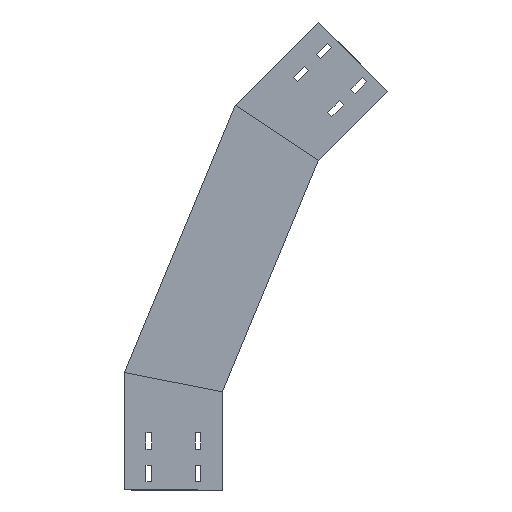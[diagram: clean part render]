
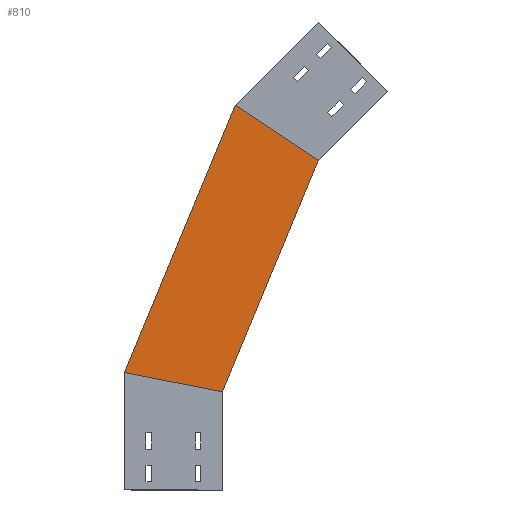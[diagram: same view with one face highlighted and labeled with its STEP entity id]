
A CAD part, left-side view. The second image highlights one B-rep face of the part: STEP entity #810.
In plain terms, the highlighted planar face has unit normal (-1, 0, 0) as drawn and (1, 0, 0) by its records, which use the part's own axes.
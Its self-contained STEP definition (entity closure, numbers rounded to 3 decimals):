
#205 = VERTEX_POINT ( 'NONE', #1183 ) ;
#213 = VECTOR ( 'NONE', #1932, 1000. ) ;
#249 = VECTOR ( 'NONE', #1435, 1000. ) ;
#252 = CARTESIAN_POINT ( 'NONE',  ( 0., 150., 179.837 ) ) ;
#365 = LINE ( 'NONE', #1309, #213 ) ;
#458 = AXIS2_PLACEMENT_3D ( 'NONE', #1426, #462, #636 ) ;
#462 = DIRECTION ( 'NONE',  ( 1., 0., 0. ) ) ;
#523 = VERTEX_POINT ( 'NONE', #1459 ) ;
#636 = DIRECTION ( 'NONE',  ( 0., 0., -1. ) ) ;
#685 = ORIENTED_EDGE ( 'NONE', *, *, #2028, .T. ) ;
#759 = EDGE_CURVE ( 'NONE', #1166, #205, #1785, .T. ) ;
#793 = PLANE ( 'NONE',  #458 ) ;
#802 = FACE_OUTER_BOUND ( 'NONE', #1477, .T. ) ;
#810 = ADVANCED_FACE ( 'NONE', ( #802 ), #793, .T. ) ;
#932 = ORIENTED_EDGE ( 'NONE', *, *, #759, .F. ) ;
#962 = CARTESIAN_POINT ( 'NONE',  ( 0., -28.701, 144.291 ) ) ;
#965 = LINE ( 'NONE', #1255, #1184 ) ;
#1166 = VERTEX_POINT ( 'NONE', #252 ) ;
#1183 = CARTESIAN_POINT ( 'NONE',  ( 0., 0., 150. ) ) ;
#1184 = VECTOR ( 'NONE', #1722, 1000. ) ;
#1255 = CARTESIAN_POINT ( 'NONE',  ( 0., 12.598, 119.585 ) ) ;
#1268 = LINE ( 'NONE', #1586, #249 ) ;
#1309 = CARTESIAN_POINT ( 'NONE',  ( 0., -214.035, 458.766 ) ) ;
#1426 = CARTESIAN_POINT ( 'NONE',  ( 0., 12.598, 119.585 ) ) ;
#1435 = DIRECTION ( 'NONE',  ( 0., -0.383, 0.924 ) ) ;
#1436 = DIRECTION ( 'NONE',  ( 0., -0.981, -0.195 ) ) ;
#1442 = EDGE_CURVE ( 'NONE', #1940, #523, #365, .T. ) ;
#1459 = CARTESIAN_POINT ( 'NONE',  ( 0., -146.568, 503.846 ) ) ;
#1477 = EDGE_LOOP ( 'NONE', ( #685, #1553, #1979, #932 ) ) ;
#1553 = ORIENTED_EDGE ( 'NONE', *, *, #1442, .T. ) ;
#1569 = VECTOR ( 'NONE', #1436, 1000. ) ;
#1586 = CARTESIAN_POINT ( 'NONE',  ( 0., 151.18, 176.988 ) ) ;
#1655 = EDGE_CURVE ( 'NONE', #205, #523, #965, .T. ) ;
#1722 = DIRECTION ( 'NONE',  ( 0., -0.383, 0.924 ) ) ;
#1785 = LINE ( 'NONE', #962, #1569 ) ;
#1856 = CARTESIAN_POINT ( 'NONE',  ( 0., -19.404, 588.814 ) ) ;
#1932 = DIRECTION ( 'NONE',  ( 0., -0.831, -0.556 ) ) ;
#1940 = VERTEX_POINT ( 'NONE', #1856 ) ;
#1979 = ORIENTED_EDGE ( 'NONE', *, *, #1655, .F. ) ;
#2028 = EDGE_CURVE ( 'NONE', #1166, #1940, #1268, .T. ) ;
